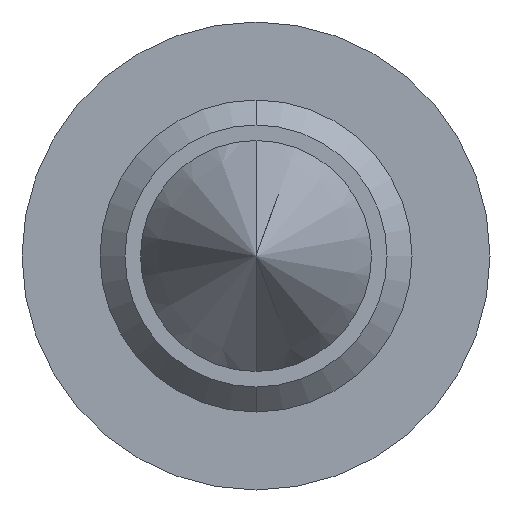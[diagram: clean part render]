
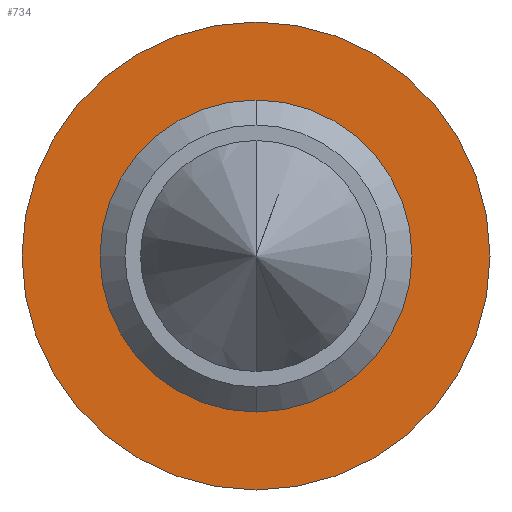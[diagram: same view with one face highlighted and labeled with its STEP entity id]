
A CAD part, front view. The second image highlights one B-rep face of the part: STEP entity #734.
In plain terms, the highlighted planar face has unit normal (0, -1, 0).
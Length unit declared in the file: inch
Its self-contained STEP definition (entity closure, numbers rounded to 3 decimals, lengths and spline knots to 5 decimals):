
#12 = PLANE ( 'NONE',  #603 ) ;
#16 = ORIENTED_EDGE ( 'NONE', *, *, #375, .F. ) ;
#28 = CARTESIAN_POINT ( 'NONE',  ( 0.27862, 0.16354, 0.21744 ) ) ;
#39 = DIRECTION ( 'NONE',  ( 0., 1., 0. ) ) ;
#161 = CARTESIAN_POINT ( 'NONE',  ( 0.27862, 0.16354, 0.21744 ) ) ;
#254 = DIRECTION ( 'NONE',  ( 0., 1., 0. ) ) ;
#316 = EDGE_CURVE ( 'NONE', #1136, #400, #979, .T. ) ;
#322 = CIRCLE ( 'NONE', #913, 0.75 ) ;
#341 = FACE_BOUND ( 'NONE', #1002, .T. ) ;
#368 = DIRECTION ( 'NONE',  ( 0., 1., 0. ) ) ;
#375 = EDGE_CURVE ( 'NONE', #707, #804, #322, .T. ) ;
#400 = VERTEX_POINT ( 'NONE', #985 ) ;
#538 = FACE_OUTER_BOUND ( 'NONE', #1126, .T. ) ;
#557 = CARTESIAN_POINT ( 'NONE',  ( 0.27862, 0.16354, 0.96744 ) ) ;
#571 = DIRECTION ( 'NONE',  ( 0., 0., 1. ) ) ;
#603 = AXIS2_PLACEMENT_3D ( 'NONE', #28, #656, #857 ) ;
#644 = EDGE_CURVE ( 'NONE', #400, #1136, #666, .T. ) ;
#656 = DIRECTION ( 'NONE',  ( 0., 1., 0. ) ) ;
#666 = CIRCLE ( 'NONE', #999, 0.5 ) ;
#668 = AXIS2_PLACEMENT_3D ( 'NONE', #1224, #368, #571 ) ;
#707 = VERTEX_POINT ( 'NONE', #557 ) ;
#727 = DIRECTION ( 'NONE',  ( 0., 1., 0. ) ) ;
#734 = ADVANCED_FACE ( 'Defeatured_0_4', ( #341, #538 ), #12, .F. ) ;
#804 = VERTEX_POINT ( 'NONE', #1267 ) ;
#807 = DIRECTION ( 'NONE',  ( 0., 0., 1. ) ) ;
#857 = DIRECTION ( 'NONE',  ( 0., 0., 1. ) ) ;
#913 = AXIS2_PLACEMENT_3D ( 'NONE', #161, #254, #807 ) ;
#979 = CIRCLE ( 'NONE', #668, 0.5 ) ;
#984 = AXIS2_PLACEMENT_3D ( 'NONE', #1265, #727, #1046 ) ;
#985 = CARTESIAN_POINT ( 'NONE',  ( 0.27862, 0.16354, -0.28256 ) ) ;
#999 = AXIS2_PLACEMENT_3D ( 'NONE', #1297, #39, #1179 ) ;
#1002 = EDGE_LOOP ( 'NONE', ( #1026, #1198 ) ) ;
#1026 = ORIENTED_EDGE ( 'NONE', *, *, #644, .T. ) ;
#1046 = DIRECTION ( 'NONE',  ( 0., 0., 1. ) ) ;
#1126 = EDGE_LOOP ( 'NONE', ( #1214, #16 ) ) ;
#1136 = VERTEX_POINT ( 'NONE', #1167 ) ;
#1167 = CARTESIAN_POINT ( 'NONE',  ( 0.27862, 0.16354, 0.71744 ) ) ;
#1179 = DIRECTION ( 'NONE',  ( 0., 0., 1. ) ) ;
#1198 = ORIENTED_EDGE ( 'NONE', *, *, #316, .T. ) ;
#1214 = ORIENTED_EDGE ( 'NONE', *, *, #1245, .F. ) ;
#1224 = CARTESIAN_POINT ( 'NONE',  ( 0.27862, 0.16354, 0.21744 ) ) ;
#1245 = EDGE_CURVE ( 'NONE', #804, #707, #1320, .T. ) ;
#1265 = CARTESIAN_POINT ( 'NONE',  ( 0.27862, 0.16354, 0.21744 ) ) ;
#1267 = CARTESIAN_POINT ( 'NONE',  ( 0.27862, 0.16354, -0.53256 ) ) ;
#1297 = CARTESIAN_POINT ( 'NONE',  ( 0.27862, 0.16354, 0.21744 ) ) ;
#1320 = CIRCLE ( 'NONE', #984, 0.75 ) ;
